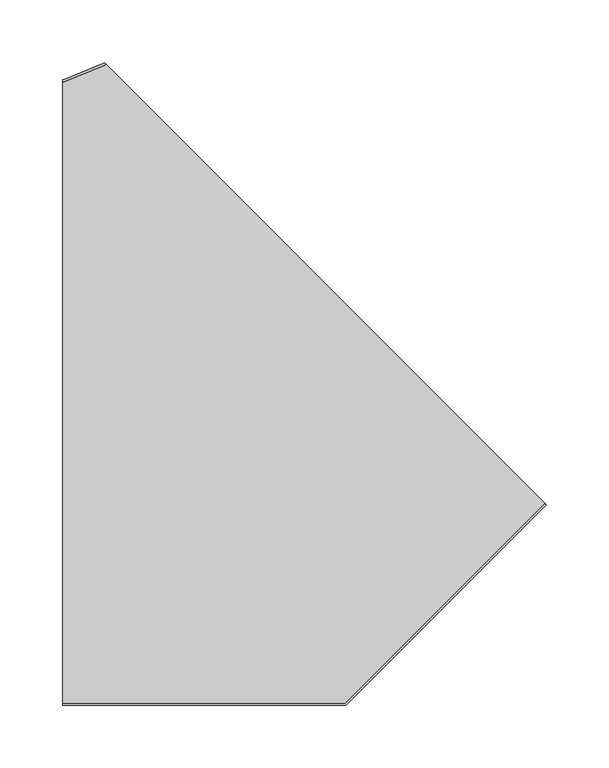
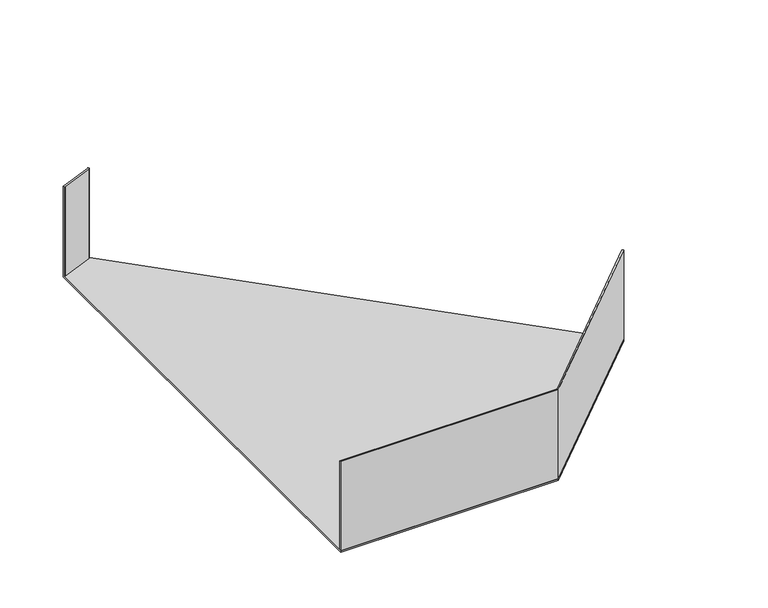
"""IFC4 building model written with IfcOpenShell, lengths in millimetres: cable carrier fitting geometry, BAKS_Horizontal bend : KKP/KKMP_H100."""

from ifc_helpers import new_model, si_unit, frame, origin, place, context, project, spatial, polyline, outline, extrude, faceted_brep, source, transform, mapped, element, save


def cable_carrier_fitting_57a60f3e(model_context):
    return source(origin(), model_context, "Body", "SolidModel", [
        faceted_brep([(-123.1930009, 248.5, 50.0), (-123.1930009, 250.0, 50.0), (-123.1930009, 250.0, -50.0), (-123.1930009, -250.0, -50.0), (-123.1930009, -250.0, -48.5), (-123.1930009, 248.5, -48.5), (-121.8946323, 248.5, 50.0), (-89.523514, 261.9085562, 50.0), (-88.6054288, 262.8266415, 50.0), (-89.666089, 263.8873016, 50.0), (-90.3731957, 263.1801948, 50.0), (-122.1930009, 250.0, 50.0), (-122.1930009, 250.0, -48.5), (-122.1930009, 250.0, -50.0), (-90.3731957, 263.1801948, -50.0), (-89.666089, 263.8873016, -50.0), (263.8873016, -89.666089, -50.0), (103.5533906, -250.0, -50.0), (-121.8946323, 248.5, -48.5), (-90.3731957, 263.1801948, -48.5), (-89.523514, 261.9085562, -48.5), (-88.6054288, 262.8266415, -48.5), (263.8873016, -89.666089, -48.5), (103.5533906, -250.0, -48.5)], [[[0, 1, 2, 3, 4, 5]], [[1, 0, 6, 7, 8, 9, 10, 11]], [[2, 1, 11, 12, 13]], [[3, 2, 13, 14, 15, 16, 17]], [[6, 0, 5, 18]], [[11, 10, 19, 14, 13, 12]], [[7, 6, 18, 20]], [[9, 8, 21, 22, 16, 15]], [[10, 9, 15, 14, 19]], [[8, 7, 20, 21]], [[4, 23, 22, 21, 20, 18, 5]], [[23, 4, 3, 17]], [[22, 23, 17, 16]]]),
        extrude(outline(polyline([(-123.1930009, -250.0), (-123.1930009, -248.5), (102.9320702, -248.5), (262.8266415, -88.6054288), (263.8873016, -89.666089), (103.5533906, -250.0), (-123.1930009, -250.0)])), frame((0.0, 0.0, -50.0), z_axis=(0.0, 0.0, 1.0), x_axis=(1.0, 0.0, 0.0)), (0.0, 0.0, 1.0), 100.0),
    ])


if __name__ == "__main__":
    model = new_model("IFC4")
    model_context = context("Model", 3, world=origin())
    ifc_project = project(units=[si_unit("LENGTHUNIT", "METRE", prefix="MILLI")], contexts=[model_context])
    site = spatial("IfcSite", under=ifc_project)
    building = spatial("IfcBuilding", under=site)
    placement = place(None, origin())
    cable_carrier_fitting_shape = cable_carrier_fitting_57a60f3e(model_context)
    element("IfcCableCarrierFitting", 1, ObjectType="BAKS_Horizontal bend : KKP/KKMP_H100", at=placement, inside=building, context=model_context, shape_type="MappedRepresentation", body=[
        mapped(cable_carrier_fitting_shape, transform((0.0, 0.0, 0.0), x_axis=(1.0, 0.0, 0.0), y_axis=(0.0, 1.0, 0.0), z_axis=(0.0, 0.0, 1.0))),
    ])
    save(model, "model.ifc")
